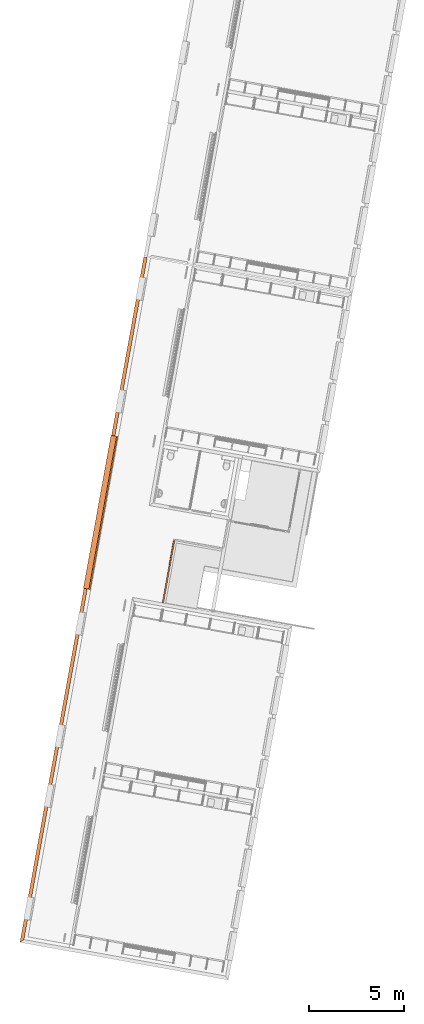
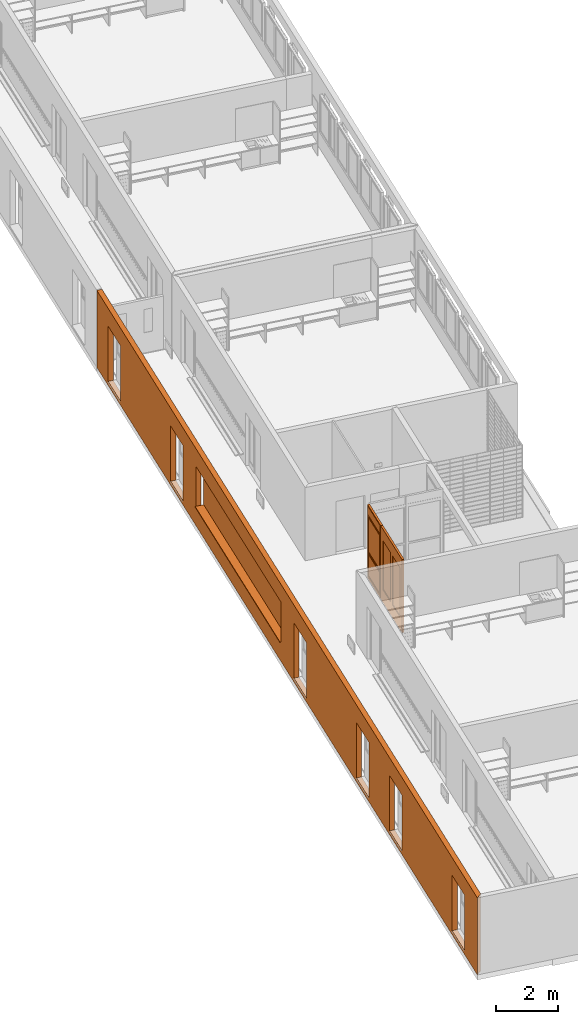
# One storey, part 39 of 52: 4 proxies.
"""IFC2X3 building model written with IfcOpenShell, lengths in metres."""

from ifc_helpers import new_model, entity, si_unit, converted_unit, derived_unit, money_unit, direction, frame, origin_with_axes, place, context, subcontext, project, spatial, polyline, outline, extrude, boolean, open_shell, faceted_brep, surface_model, material, type_object, element, save


model = new_model("IFC2X3")

# Units and contexts
model_context = context("Model", 3, precision=1e-05, world=origin_with_axes(), true_north=direction((0.0, 1.0)))
body_context = subcontext(model_context, "Body", "Model", "MODEL_VIEW")
ifc_project = project(units=[si_unit("LENGTHUNIT", "METRE"), si_unit("AREAUNIT", "SQUARE_METRE"), si_unit("VOLUMEUNIT", "CUBIC_METRE"), converted_unit("PLANEANGLEUNIT", "DEGREE", entity("IfcPlaneAngleMeasure", 0.0174532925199), si_unit("PLANEANGLEUNIT", "RADIAN"), dimensions=[0, 0, 0, 0, 0, 0, 0]), money_unit("CHF"), converted_unit("TIMEUNIT", "Year", entity("IfcTimeMeasure", 31556926.0), si_unit("TIMEUNIT", "SECOND"), dimensions=[0, 0, 1, 0, 0, 0, 0]), si_unit("MASSUNIT", "GRAM", prefix="KILO"), si_unit("THERMODYNAMICTEMPERATUREUNIT", "DEGREE_CELSIUS"), si_unit("LUMINOUSINTENSITYUNIT", "LUMEN"), si_unit("ENERGYUNIT", "JOULE", prefix="MEGA"), derived_unit("THERMALCONDUCTANCEUNIT", [(si_unit("POWERUNIT", "WATT"), 1), (si_unit("LENGTHUNIT", "METRE"), -1), (si_unit("THERMODYNAMICTEMPERATUREUNIT", "KELVIN"), -1)]), derived_unit("SPECIFICHEATCAPACITYUNIT", [(si_unit("ENERGYUNIT", "JOULE"), 1), (si_unit("MASSUNIT", "GRAM", prefix="KILO"), -1), (si_unit("THERMODYNAMICTEMPERATUREUNIT", "KELVIN"), -1)]), derived_unit("MASSDENSITYUNIT", [(si_unit("MASSUNIT", "GRAM", prefix="KILO"), 1), (si_unit("VOLUMEUNIT", "CUBIC_METRE"), -1)])], contexts=[model_context])

# Site, building, storey
site_placement = place(None, frame((0.0, 0.0, 0.0), z_axis=(0.0, 0.0, 1.0), x_axis=(-0.177771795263, -0.984071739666, 0.0)))
site = spatial("IfcSite", under=ifc_project, at=site_placement, Name="Site", CompositionType="ELEMENT")
building_placement = place(site_placement, origin_with_axes())
building = spatial("IfcBuilding", under=site, at=building_placement, Name="Bâtiment", CompositionType="ELEMENT")
storey_placement = place(building_placement, frame((0.0, 0.0, 3.2), z_axis=(0.0, 0.0, 1.0), x_axis=(1.0, 0.0, 0.0)))
storey = spatial("IfcBuildingStorey", under=building, at=storey_placement, Name="R+1", CompositionType="ELEMENT", Elevation=3.2)

# Proxies
ifc_material_1 = material(Name="_BA banché MILIEU")
building_element_proxy_type_1 = type_object("IfcBuildingElementProxyType", Name="_M ext 18 +18 MILIEU 360", PredefinedType="NOTDEFINED")
proxy_1_placement = place(storey_placement, frame((165.029841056, -159.217107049, -0.15), z_axis=(0.0, 0.0, 1.0), x_axis=(-1.0, 0.0, 0.0)))
element("IfcBuildingElementProxy", 1, at=proxy_1_placement, inside=storey, type_object=building_element_proxy_type_1, material=ifc_material_1, Name="M ext entretien-Est", context=body_context, shape_type="CSG", body=[
    boolean("DIFFERENCE", boolean("DIFFERENCE", boolean("DIFFERENCE", boolean("DIFFERENCE", boolean("DIFFERENCE", boolean("DIFFERENCE", boolean("DIFFERENCE", extrude(outline(polyline([(0.18, -0.18), (36.524999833, -0.18), (36.524999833, 0.0), (0.0, 0.0), (0.18, -0.18)])), origin_with_axes(), (0.0, 0.0, 1.0), 3.05), faceted_brep([(35.444999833, 0.0, 0.151), (34.244999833, 0.0, 0.151), (34.244999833, 0.0, 2.35), (35.444999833, 0.0, 2.35), (35.444999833, -0.18, 0.151), (34.244999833, -0.18, 0.151), (34.244999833, -0.18, 2.35), (35.444999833, -0.18, 2.35)], [[[0, 1, 2, 3]], [[4, 5, 1, 0]], [[5, 6, 2, 1]], [[6, 7, 3, 2]], [[7, 4, 0, 3]], [[4, 7, 6, 5]]])), faceted_brep([(29.444999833, 0.0, 0.151), (28.244999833, 0.0, 0.151), (28.244999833, 0.0, 2.35), (29.444999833, 0.0, 2.35), (29.444999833, -0.18, 0.151), (28.244999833, -0.18, 0.151), (28.244999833, -0.18, 2.35), (29.444999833, -0.18, 2.35)], [[[0, 1, 2, 3]], [[4, 5, 1, 0]], [[5, 6, 2, 1]], [[6, 7, 3, 2]], [[7, 4, 0, 3]], [[4, 7, 6, 5]]])), faceted_brep([(27.0025012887, 0.0, 0.751), (18.8525012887, 0.0, 0.751), (18.8525012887, 0.0, 2.35), (27.0025012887, 0.0, 2.35), (27.0025012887, -0.18, 0.751), (18.8525012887, -0.18, 0.751), (18.8525012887, -0.18, 2.35), (27.0025012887, -0.18, 2.35)], [[[0, 1, 2, 3]], [[4, 5, 1, 0]], [[5, 6, 2, 1]], [[6, 7, 3, 2]], [[7, 4, 0, 3]], [[4, 7, 6, 5]]])), faceted_brep([(17.6099998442, 0.0, 0.151), (16.4099998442, 0.0, 0.151), (16.4099998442, 0.0, 2.35), (17.6099998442, 0.0, 2.35), (17.6099998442, -0.18, 0.151), (16.4099998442, -0.18, 0.151), (16.4099998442, -0.18, 2.35), (17.6099998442, -0.18, 2.35)], [[[0, 1, 2, 3]], [[4, 5, 1, 0]], [[5, 6, 2, 1]], [[6, 7, 3, 2]], [[7, 4, 0, 3]], [[4, 7, 6, 5]]])), faceted_brep([(11.61, 0.0, 0.151), (10.41, 0.0, 0.151), (10.41, 0.0, 2.35), (11.61, 0.0, 2.35), (11.61, -0.18, 0.151), (10.41, -0.18, 0.151), (10.41, -0.18, 2.35), (11.61, -0.18, 2.35)], [[[0, 1, 2, 3]], [[4, 5, 1, 0]], [[5, 6, 2, 1]], [[6, 7, 3, 2]], [[7, 4, 0, 3]], [[4, 7, 6, 5]]])), faceted_brep([(8.43, 0.0, 0.151), (7.23, 0.0, 0.151), (7.23, 0.0, 2.35), (8.43, 0.0, 2.35), (8.43, -0.18, 0.151), (7.23, -0.18, 0.151), (7.23, -0.18, 2.35), (8.43, -0.18, 2.35)], [[[0, 1, 2, 3]], [[4, 5, 1, 0]], [[5, 6, 2, 1]], [[6, 7, 3, 2]], [[7, 4, 0, 3]], [[4, 7, 6, 5]]])), faceted_brep([(2.43, 0.0, 0.151), (1.23, 0.0, 0.151), (1.23, 0.0, 2.35), (2.43, 0.0, 2.35), (2.43, -0.18, 0.151), (1.23, -0.18, 0.151), (1.23, -0.18, 2.35), (2.43, -0.18, 2.35)], [[[0, 1, 2, 3]], [[4, 5, 1, 0]], [[5, 6, 2, 1]], [[6, 7, 3, 2]], [[7, 4, 0, 3]], [[4, 7, 6, 5]]])),
])
ifc_material_2 = material(Name="Matériau de construction IFC")
building_element_proxy_type_2 = type_object("IfcBuildingElementProxyType", Name="Fenêtre horizontale à châssis multiples 21", PredefinedType="NOTDEFINED")
proxy_2_placement = place(storey_placement, frame((138.027339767, -159.217107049, 0.601), z_axis=(0.0, 0.0, 1.0), x_axis=(1.0, 0.0, 0.0)))
element("IfcBuildingElementProxy", 2, at=proxy_2_placement, inside=storey, type_object=building_element_proxy_type_2, material=ifc_material_2, Name="Baie couloir", context=body_context, shape_type="SurfaceModel", body=[
    surface_model("IfcShellBasedSurfaceModel", [(0.0, 0.264, 0.03), (0.0, 0.264, 0.02), (8.15, 0.264, 0.02), (8.15, 0.264, 0.03), (0.0, -0.03, 0.02), (8.15, -0.03, 0.02), (0.0, -0.03, -0.01), (8.15, -0.03, -0.01), (0.0, -0.015, 0.005), (8.15, -0.015, 0.005)], [open_shell([[[0, 1, 2, 3]], [[1, 4, 5, 2]], [[4, 6, 7, 5]], [[6, 8, 9, 7]]])]),
    faceted_brep([(0.03, 0.265, 1.569), (0.03, 0.34, 1.569), (0.0, 0.34, 1.569), (0.0, 0.265, 1.569), (0.03, 0.265, 0.07), (0.03, 0.34, 0.07), (0.0, 0.34, 0.07), (0.0, 0.265, 0.07)], [[[0, 1, 2, 3]], [[4, 5, 1, 0]], [[1, 5, 6, 2]], [[3, 2, 6, 7]], [[0, 3, 7, 4]], [[7, 6, 5, 4]]]),
    faceted_brep([(8.12, 0.265, 0.07), (8.12, 0.34, 0.07), (8.15, 0.34, 0.07), (8.15, 0.265, 0.07), (8.12, 0.265, 1.569), (8.12, 0.34, 1.569), (8.15, 0.34, 1.569), (8.15, 0.265, 1.569)], [[[0, 1, 2, 3]], [[4, 5, 1, 0]], [[1, 5, 6, 2]], [[3, 2, 6, 7]], [[0, 3, 7, 4]], [[7, 6, 5, 4]]]),
    faceted_brep([(8.12, 0.265, 1.569), (8.12, 0.34, 1.569), (8.15, 0.34, 1.569), (8.15, 0.265, 1.569), (7.03285714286, 0.265, 1.569), (7.03285714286, 0.34, 1.569), (6.95285714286, 0.34, 1.569), (5.86571428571, 0.34, 1.569), (5.78571428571, 0.34, 1.569), (4.69857142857, 0.34, 1.569), (4.61857142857, 0.34, 1.569), (3.53142857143, 0.34, 1.569), (3.45142857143, 0.34, 1.569), (2.36428571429, 0.34, 1.569), (2.28428571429, 0.34, 1.569), (1.19714285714, 0.34, 1.569), (1.11714285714, 0.34, 1.569), (0.03, 0.34, 1.569), (0.0, 0.34, 1.569), (0.0, 0.34, 1.599), (8.15, 0.34, 1.599), (8.15, 0.265, 1.599), (0.0, 0.265, 1.599), (0.0, 0.265, 1.569), (0.03, 0.265, 1.569), (1.11714285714, 0.265, 1.569), (1.19714285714, 0.265, 1.569), (2.28428571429, 0.265, 1.569), (2.36428571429, 0.265, 1.569), (3.45142857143, 0.265, 1.569), (3.53142857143, 0.265, 1.569), (4.61857142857, 0.265, 1.569), (4.69857142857, 0.265, 1.569), (5.78571428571, 0.265, 1.569), (5.86571428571, 0.265, 1.569), (6.95285714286, 0.265, 1.569)], [[[0, 1, 2, 3]], [[4, 5, 1, 0]], [[1, 5, 6, 7, 8, 9, 10, 11, 12, 13, 14, 15, 16, 17, 18, 19, 20, 2]], [[3, 2, 20, 21]], [[0, 3, 21, 22, 23, 24, 25, 26, 27, 28, 29, 30, 31, 32, 33, 34, 35, 4]], [[35, 6, 5, 4]], [[34, 7, 6, 35]], [[33, 8, 7, 34]], [[32, 9, 8, 33]], [[31, 10, 9, 32]], [[30, 11, 10, 31]], [[29, 12, 11, 30]], [[28, 13, 12, 29]], [[27, 14, 13, 28]], [[26, 15, 14, 27]], [[25, 16, 15, 26]], [[24, 17, 16, 25]], [[23, 18, 17, 24]], [[22, 19, 18, 23]], [[21, 20, 19, 22]]]),
    faceted_brep([(7.03285714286, 0.265, 0.07), (7.03285714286, 0.34, 0.07), (6.95285714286, 0.34, 0.07), (6.95285714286, 0.265, 0.07), (8.12, 0.265, 0.07), (8.12, 0.34, 0.07), (8.15, 0.34, 0.07), (8.15, 0.34, 0.0), (0.0, 0.34, 0.0), (0.0, 0.34, 0.07), (0.03, 0.34, 0.07), (1.11714285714, 0.34, 0.07), (1.19714285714, 0.34, 0.07), (2.28428571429, 0.34, 0.07), (2.36428571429, 0.34, 0.07), (3.45142857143, 0.34, 0.07), (3.53142857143, 0.34, 0.07), (4.61857142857, 0.34, 0.07), (4.69857142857, 0.34, 0.07), (5.78571428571, 0.34, 0.07), (5.86571428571, 0.34, 0.07), (5.86571428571, 0.265, 0.07), (5.78571428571, 0.265, 0.07), (4.69857142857, 0.265, 0.07), (4.61857142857, 0.265, 0.07), (3.53142857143, 0.265, 0.07), (3.45142857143, 0.265, 0.07), (2.36428571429, 0.265, 0.07), (2.28428571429, 0.265, 0.07), (1.19714285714, 0.265, 0.07), (1.11714285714, 0.265, 0.07), (0.03, 0.265, 0.07), (0.0, 0.265, 0.07), (0.0, 0.265, 0.0), (8.15, 0.265, 0.0), (8.15, 0.265, 0.07)], [[[0, 1, 2, 3]], [[4, 5, 1, 0]], [[1, 5, 6, 7, 8, 9, 10, 11, 12, 13, 14, 15, 16, 17, 18, 19, 20, 2]], [[3, 2, 20, 21]], [[0, 3, 21, 22, 23, 24, 25, 26, 27, 28, 29, 30, 31, 32, 33, 34, 35, 4]], [[35, 6, 5, 4]], [[34, 7, 6, 35]], [[33, 8, 7, 34]], [[32, 9, 8, 33]], [[31, 10, 9, 32]], [[30, 11, 10, 31]], [[29, 12, 11, 30]], [[28, 13, 12, 29]], [[27, 14, 13, 28]], [[26, 15, 14, 27]], [[25, 16, 15, 26]], [[24, 17, 16, 25]], [[23, 18, 17, 24]], [[22, 19, 18, 23]], [[21, 20, 19, 22]]]),
    faceted_brep([(1.19714285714, 0.265, 0.07), (1.19714285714, 0.34, 0.07), (1.19714285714, 0.34, 1.569), (1.19714285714, 0.265, 1.569), (1.11714285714, 0.265, 0.07), (1.11714285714, 0.34, 0.07), (1.11714285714, 0.34, 1.569), (1.11714285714, 0.265, 1.569)], [[[0, 1, 2, 3]], [[4, 5, 1, 0]], [[1, 5, 6, 2]], [[3, 2, 6, 7]], [[0, 3, 7, 4]], [[7, 6, 5, 4]]]),
    faceted_brep([(2.36428571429, 0.265, 0.07), (2.36428571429, 0.34, 0.07), (2.36428571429, 0.34, 1.569), (2.36428571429, 0.265, 1.569), (2.28428571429, 0.265, 0.07), (2.28428571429, 0.34, 0.07), (2.28428571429, 0.34, 1.569), (2.28428571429, 0.265, 1.569)], [[[0, 1, 2, 3]], [[4, 5, 1, 0]], [[1, 5, 6, 2]], [[3, 2, 6, 7]], [[0, 3, 7, 4]], [[7, 6, 5, 4]]]),
    faceted_brep([(3.53142857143, 0.265, 0.07), (3.53142857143, 0.34, 0.07), (3.53142857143, 0.34, 1.569), (3.53142857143, 0.265, 1.569), (3.45142857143, 0.265, 0.07), (3.45142857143, 0.34, 0.07), (3.45142857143, 0.34, 1.569), (3.45142857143, 0.265, 1.569)], [[[0, 1, 2, 3]], [[4, 5, 1, 0]], [[1, 5, 6, 2]], [[3, 2, 6, 7]], [[0, 3, 7, 4]], [[7, 6, 5, 4]]]),
    faceted_brep([(4.69857142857, 0.265, 0.07), (4.69857142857, 0.34, 0.07), (4.69857142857, 0.34, 1.569), (4.69857142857, 0.265, 1.569), (4.61857142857, 0.265, 0.07), (4.61857142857, 0.34, 0.07), (4.61857142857, 0.34, 1.569), (4.61857142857, 0.265, 1.569)], [[[0, 1, 2, 3]], [[4, 5, 1, 0]], [[1, 5, 6, 2]], [[3, 2, 6, 7]], [[0, 3, 7, 4]], [[7, 6, 5, 4]]]),
    faceted_brep([(5.86571428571, 0.265, 0.07), (5.86571428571, 0.34, 0.07), (5.86571428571, 0.34, 1.569), (5.86571428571, 0.265, 1.569), (5.78571428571, 0.265, 0.07), (5.78571428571, 0.34, 0.07), (5.78571428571, 0.34, 1.569), (5.78571428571, 0.265, 1.569)], [[[0, 1, 2, 3]], [[4, 5, 1, 0]], [[1, 5, 6, 2]], [[3, 2, 6, 7]], [[0, 3, 7, 4]], [[7, 6, 5, 4]]]),
    faceted_brep([(7.03285714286, 0.265, 0.07), (7.03285714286, 0.34, 0.07), (7.03285714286, 0.34, 1.569), (7.03285714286, 0.265, 1.569), (6.95285714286, 0.265, 0.07), (6.95285714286, 0.34, 0.07), (6.95285714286, 0.34, 1.569), (6.95285714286, 0.265, 1.569)], [[[0, 1, 2, 3]], [[4, 5, 1, 0]], [[1, 5, 6, 2]], [[3, 2, 6, 7]], [[0, 3, 7, 4]], [[7, 6, 5, 4]]]),
    surface_model("IfcShellBasedSurfaceModel", [(0.03, 0.265, 0.07), (1.11714285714, 0.265, 0.07), (1.11714285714, 0.265, 1.569), (0.03, 0.265, 1.569)], [open_shell([[[0, 1, 2, 3]]])]),
    surface_model("IfcShellBasedSurfaceModel", [(0.03, 0.285, 0.07), (0.03, 0.285, 1.569), (1.11714285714, 0.285, 1.569), (1.11714285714, 0.285, 0.07)], [open_shell([[[0, 1, 2, 3]]])]),
    surface_model("IfcShellBasedSurfaceModel", [(1.19714285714, 0.265, 0.07), (2.28428571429, 0.265, 0.07), (2.28428571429, 0.265, 1.569), (1.19714285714, 0.265, 1.569)], [open_shell([[[0, 1, 2, 3]]])]),
    surface_model("IfcShellBasedSurfaceModel", [(1.19714285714, 0.285, 0.07), (1.19714285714, 0.285, 1.569), (2.28428571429, 0.285, 1.569), (2.28428571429, 0.285, 0.07)], [open_shell([[[0, 1, 2, 3]]])]),
    surface_model("IfcShellBasedSurfaceModel", [(2.36428571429, 0.265, 0.07), (3.45142857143, 0.265, 0.07), (3.45142857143, 0.265, 1.569), (2.36428571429, 0.265, 1.569)], [open_shell([[[0, 1, 2, 3]]])]),
    surface_model("IfcShellBasedSurfaceModel", [(2.36428571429, 0.285, 0.07), (2.36428571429, 0.285, 1.569), (3.45142857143, 0.285, 1.569), (3.45142857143, 0.285, 0.07)], [open_shell([[[0, 1, 2, 3]]])]),
    surface_model("IfcShellBasedSurfaceModel", [(3.53142857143, 0.265, 0.07), (4.61857142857, 0.265, 0.07), (4.61857142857, 0.265, 1.569), (3.53142857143, 0.265, 1.569)], [open_shell([[[0, 1, 2, 3]]])]),
    surface_model("IfcShellBasedSurfaceModel", [(3.53142857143, 0.285, 0.07), (3.53142857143, 0.285, 1.569), (4.61857142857, 0.285, 1.569), (4.61857142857, 0.285, 0.07)], [open_shell([[[0, 1, 2, 3]]])]),
    surface_model("IfcShellBasedSurfaceModel", [(4.69857142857, 0.265, 0.07), (5.78571428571, 0.265, 0.07), (5.78571428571, 0.265, 1.569), (4.69857142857, 0.265, 1.569)], [open_shell([[[0, 1, 2, 3]]])]),
    surface_model("IfcShellBasedSurfaceModel", [(4.69857142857, 0.285, 0.07), (4.69857142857, 0.285, 1.569), (5.78571428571, 0.285, 1.569), (5.78571428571, 0.285, 0.07)], [open_shell([[[0, 1, 2, 3]]])]),
    surface_model("IfcShellBasedSurfaceModel", [(5.86571428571, 0.265, 0.07), (6.95285714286, 0.265, 0.07), (6.95285714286, 0.265, 1.569), (5.86571428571, 0.265, 1.569)], [open_shell([[[0, 1, 2, 3]]])]),
    surface_model("IfcShellBasedSurfaceModel", [(5.86571428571, 0.285, 0.07), (5.86571428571, 0.285, 1.569), (6.95285714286, 0.285, 1.569), (6.95285714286, 0.285, 0.07)], [open_shell([[[0, 1, 2, 3]]])]),
    surface_model("IfcShellBasedSurfaceModel", [(7.03285714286, 0.265, 0.07), (8.12, 0.265, 0.07), (8.12, 0.265, 1.569), (7.03285714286, 0.265, 1.569)], [open_shell([[[0, 1, 2, 3]]])]),
    surface_model("IfcShellBasedSurfaceModel", [(7.03285714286, 0.285, 0.07), (7.03285714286, 0.285, 1.569), (8.12, 0.285, 1.569), (8.12, 0.285, 0.07)], [open_shell([[[0, 1, 2, 3]]])]),
])
building_element_proxy_type_3 = type_object("IfcBuildingElementProxyType", Name="Fenêtre verticale à châssis multiples 21", PredefinedType="NOTDEFINED")
proxy_3_placement = place(storey_placement, frame((144.149840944, -154.972147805, 0.0), z_axis=(0.0, 0.0, 1.0), x_axis=(-0.999999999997, -2.4125125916e-06, 0.0)))
element("IfcBuildingElementProxy", 3, at=proxy_3_placement, inside=storey, type_object=building_element_proxy_type_3, material=ifc_material_2, Name="Baie terrasse_ATTENTE", context=body_context, shape_type="SurfaceModel", body=[
    faceted_brep([(1.26000058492, 0.075, 0.07), (1.26000058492, 0.075, 2.5225), (1.25000058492, 0.075, 2.5225), (1.25000058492, 0.075, 2.5775), (1.26000058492, 0.075, 2.5775), (1.26000058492, 0.075, 2.87), (1.28000058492, 0.075, 2.87), (1.28000058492, 0.075, 0.07), (1.26000058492, 0.01, 0.07), (1.26000058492, 0.01, 2.5225), (1.25000058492, 0.01, 2.5225), (1.25000058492, 0.01, 2.5125), (1.25000058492, 0.0, 2.5125), (1.25000058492, 0.0, 2.5875), (1.25000058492, 0.01, 2.5875), (1.25000058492, 0.01, 2.5775), (1.26000058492, 0.01, 2.5775), (1.26000058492, 0.01, 2.87), (1.25000058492, 0.01, 2.87), (1.25000058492, 0.0, 2.87), (1.28000058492, 0.0, 2.87), (1.28000058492, 0.0, 0.07), (1.25000058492, 0.0, 0.07), (1.25000058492, 0.01, 0.07)], [[[0, 1, 2, 3, 4, 5, 6, 7]], [[1, 0, 8, 9]], [[10, 2, 1, 9]], [[10, 11, 12, 13, 14, 15, 3, 2]], [[4, 3, 15, 16]], [[17, 5, 4, 16]], [[5, 17, 18, 19, 20, 6]], [[6, 20, 21, 7]], [[8, 0, 7, 21, 22, 23]], [[11, 10, 9, 8, 23]], [[11, 23, 22, 12]], [[20, 19, 13, 12, 22, 21]], [[18, 14, 13, 19]], [[14, 18, 17, 16, 15]]]),
    faceted_brep([(0.02, 0.075, 2.5225), (0.02, 0.075, 0.07), (0.0, 0.075, 0.07), (0.0, 0.075, 2.87), (0.02, 0.075, 2.87), (0.02, 0.075, 2.5775), (0.03, 0.075, 2.5775), (0.03, 0.075, 2.5225), (0.02, 0.01, 2.5225), (0.02, 0.01, 0.07), (0.03, 0.01, 0.07), (0.03, 0.0, 0.07), (0.0, 0.0, 0.07), (0.0, 0.0, 2.87), (0.03, 0.01, 2.87), (0.02, 0.01, 2.87), (0.03, 0.0, 2.87), (0.02, 0.01, 2.5775), (0.03, 0.01, 2.5775), (0.03, 0.01, 2.5225), (0.03, 0.01, 2.5875), (0.03, 0.0, 2.5875), (0.03, 0.0, 2.5125), (0.03, 0.01, 2.5125)], [[[0, 1, 2, 3, 4, 5, 6, 7]], [[1, 0, 8, 9]], [[9, 10, 11, 12, 2, 1]], [[2, 12, 13, 3]], [[14, 15, 4, 3, 13, 16]], [[5, 4, 15, 17]], [[6, 5, 17, 18]], [[19, 7, 6, 18, 20, 21, 22, 23]], [[0, 7, 19, 8]], [[10, 9, 8, 19, 23]], [[10, 23, 22, 11]], [[22, 21, 16, 13, 12, 11]], [[15, 14, 20, 18, 17]], [[20, 14, 16, 21]]]),
    faceted_brep([(1.26000058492, 0.075, 2.87), (1.26000058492, 0.075, 2.88), (0.02, 0.075, 2.88), (0.02, 0.075, 2.87), (0.0, 0.075, 2.87), (0.0, 0.075, 2.9), (1.28000058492, 0.075, 2.9), (1.28000058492, 0.075, 2.87), (1.26000058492, 0.01, 2.87), (1.26000058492, 0.01, 2.88), (0.02, 0.01, 2.88), (0.02, 0.01, 2.87), (0.03, 0.01, 2.87), (0.03, 0.0, 2.87), (0.0, 0.0, 2.87), (0.0, 0.0, 2.9), (1.28000058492, 0.0, 2.9), (1.28000058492, 0.0, 2.87), (1.25000058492, 0.0, 2.87), (1.25000058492, 0.01, 2.87)], [[[0, 1, 2, 3, 4, 5, 6, 7]], [[1, 0, 8, 9]], [[2, 1, 9, 10]], [[3, 2, 10, 11]], [[11, 12, 13, 14, 4, 3]], [[4, 14, 15, 5]], [[5, 15, 16, 6]], [[6, 16, 17, 7]], [[8, 0, 7, 17, 18, 19]], [[12, 11, 10, 9, 8, 19]], [[12, 19, 18, 13]], [[14, 13, 18, 17, 16, 15]]]),
    faceted_brep([(0.03, 0.01, 0.07), (0.02, 0.01, 0.07), (0.02, 0.075, 0.07), (0.0, 0.075, 0.07), (0.0, 0.0, 0.07), (0.03, 0.0, 0.07), (1.25000058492, 0.01, 0.07), (1.26000058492, 0.01, 0.07), (1.26000058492, 0.01, 0.06), (0.02, 0.01, 0.06), (0.02, 0.075, 0.06), (1.26000058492, 0.075, 0.06), (1.26000058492, 0.075, 0.07), (1.28000058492, 0.075, 0.07), (1.28000058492, 0.075, 0.0), (0.0, 0.075, 0.0), (0.0, 0.0, 0.0), (1.28000058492, 0.0, 0.07), (1.25000058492, 0.0, 0.07), (1.28000058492, 0.0, 0.0)], [[[0, 1, 2, 3, 4, 5]], [[1, 0, 6, 7, 8, 9]], [[10, 2, 1, 9]], [[11, 12, 13, 14, 15, 3, 2, 10]], [[15, 16, 4, 3]], [[17, 18, 5, 4, 16, 19]], [[6, 0, 5, 18]], [[7, 6, 18, 17, 13, 12]], [[7, 12, 11, 8]], [[11, 10, 9, 8]], [[13, 17, 19, 14]], [[14, 19, 16, 15]]]),
    faceted_brep([(1.25000058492, 0.075, 2.5225), (0.03, 0.075, 2.5225), (0.03, 0.075, 2.5775), (1.25000058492, 0.075, 2.5775), (0.03, 0.01, 2.5225), (1.25000058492, 0.01, 2.5225), (0.03, 0.01, 2.5125), (0.03, 0.0, 2.5125), (0.03, 0.0, 2.5875), (0.03, 0.01, 2.5875), (0.03, 0.01, 2.5775), (1.25000058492, 0.01, 2.5775), (1.25000058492, 0.01, 2.5875), (1.25000058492, 0.0, 2.5875), (1.25000058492, 0.0, 2.5125), (1.25000058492, 0.01, 2.5125)], [[[0, 1, 2, 3]], [[4, 1, 0, 5]], [[4, 6, 7, 8, 9, 10, 2, 1]], [[3, 2, 10, 11]], [[5, 0, 3, 11, 12, 13, 14, 15]], [[6, 4, 5, 15]], [[6, 15, 14, 7]], [[13, 8, 7, 14]], [[12, 9, 8, 13]], [[10, 9, 12, 11]]]),
    faceted_brep([(1.20000058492, 0.01, 1.0), (1.20000058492, 0.01, 1.06), (1.20000058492, 0.085, 1.06), (1.20000058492, 0.085, 1.0), (1.20000058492, 0.01, 0.12), (1.26000058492, 0.01, 0.12), (1.26000058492, 0.01, 2.4625), (1.20000058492, 0.01, 2.4625), (1.20000058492, 0.085, 2.4625), (1.26000058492, 0.085, 2.4625), (1.26000058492, 0.085, 0.12), (1.20000058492, 0.085, 0.12)], [[[0, 1, 2, 3]], [[0, 4, 5, 6, 7, 1]], [[1, 7, 8, 2]], [[3, 2, 8, 9, 10, 11]], [[4, 0, 3, 11]], [[5, 4, 11, 10]], [[6, 5, 10, 9]], [[7, 6, 9, 8]]]),
    faceted_brep([(0.08, 0.01, 0.12), (0.02, 0.01, 0.12), (0.02, 0.085, 0.12), (0.08, 0.085, 0.12), (0.08, 0.01, 1.0), (0.08, 0.01, 1.06), (0.08, 0.01, 2.4625), (0.02, 0.01, 2.4625), (0.02, 0.085, 2.4625), (0.08, 0.085, 2.4625), (0.08, 0.085, 1.06), (0.08, 0.085, 1.0)], [[[0, 1, 2, 3]], [[0, 4, 5, 6, 7, 1]], [[1, 7, 8, 2]], [[3, 2, 8, 9, 10, 11]], [[4, 0, 3, 11]], [[5, 4, 11, 10]], [[6, 5, 10, 9]], [[7, 6, 9, 8]]]),
    faceted_brep([(0.02, 0.01, 0.06), (0.02, 0.01, 0.12), (0.02, 0.085, 0.12), (0.02, 0.085, 0.06), (1.26000058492, 0.01, 0.06), (1.26000058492, 0.01, 0.12), (1.20000058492, 0.01, 0.12), (0.08, 0.01, 0.12), (0.08, 0.085, 0.12), (1.20000058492, 0.085, 0.12), (1.26000058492, 0.085, 0.12), (1.26000058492, 0.085, 0.06)], [[[0, 1, 2, 3]], [[0, 4, 5, 6, 7, 1]], [[1, 7, 8, 2]], [[3, 2, 8, 9, 10, 11]], [[4, 0, 3, 11]], [[5, 4, 11, 10]], [[6, 5, 10, 9]], [[7, 6, 9, 8]]]),
    faceted_brep([(1.26000058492, 0.01, 2.5225), (1.26000058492, 0.01, 2.4625), (1.26000058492, 0.085, 2.4625), (1.26000058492, 0.085, 2.5225), (0.02, 0.01, 2.5225), (0.02, 0.01, 2.4625), (0.08, 0.01, 2.4625), (1.20000058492, 0.01, 2.4625), (1.20000058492, 0.085, 2.4625), (0.08, 0.085, 2.4625), (0.02, 0.085, 2.4625), (0.02, 0.085, 2.5225)], [[[0, 1, 2, 3]], [[0, 4, 5, 6, 7, 1]], [[1, 7, 8, 2]], [[3, 2, 8, 9, 10, 11]], [[4, 0, 3, 11]], [[5, 4, 11, 10]], [[6, 5, 10, 9]], [[7, 6, 9, 8]]]),
    faceted_brep([(0.08, 0.01, 1.0), (0.08, 0.01, 1.06), (0.08, 0.085, 1.06), (0.08, 0.085, 1.0), (1.20000058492, 0.01, 1.0), (1.20000058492, 0.01, 1.06), (1.20000058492, 0.085, 1.06), (1.20000058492, 0.085, 1.0)], [[[0, 1, 2, 3]], [[0, 4, 5, 1]], [[1, 5, 6, 2]], [[3, 2, 6, 7]], [[4, 0, 3, 7]], [[5, 4, 7, 6]]]),
    surface_model("IfcShellBasedSurfaceModel", [(1.20000058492, 0.0375, 1.06), (1.20000058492, 0.0375, 2.4625), (0.08, 0.0375, 2.4625), (0.08, 0.0375, 1.06)], [open_shell([[[0, 1, 2, 3]]])]),
    surface_model("IfcShellBasedSurfaceModel", [(1.20000058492, 0.0575, 1.06), (0.08, 0.0575, 1.06), (0.08, 0.0575, 2.4625), (1.20000058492, 0.0575, 2.4625)], [open_shell([[[0, 1, 2, 3]]])]),
    surface_model("IfcShellBasedSurfaceModel", [(1.20000058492, 0.0375, 0.12), (1.20000058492, 0.0375, 1.0), (0.08, 0.0375, 1.0), (0.08, 0.0375, 0.12)], [open_shell([[[0, 1, 2, 3]]])]),
    surface_model("IfcShellBasedSurfaceModel", [(1.20000058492, 0.0575, 0.12), (0.08, 0.0575, 0.12), (0.08, 0.0575, 1.0), (1.20000058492, 0.0575, 1.0)], [open_shell([[[0, 1, 2, 3]]])]),
    faceted_brep([(1.26000058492, 0.01, 2.5775), (0.02, 0.01, 2.5775), (0.02, 0.085, 2.5775), (1.26000058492, 0.085, 2.5775), (1.26000058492, 0.01, 2.88), (0.02, 0.01, 2.88), (0.02, 0.085, 2.88), (1.26000058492, 0.085, 2.88)], [[[0, 1, 2, 3]], [[0, 4, 5, 1]], [[1, 5, 6, 2]], [[3, 2, 6, 7]], [[4, 0, 3, 7]], [[5, 4, 7, 6]]]),
])
building_element_proxy_type_4 = type_object("IfcBuildingElementProxyType", Name="Porte double avec imposte 21", PredefinedType="NOTDEFINED")
proxy_4_placement = place(storey_placement, frame((144.149840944, -154.972147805, 0.0), z_axis=(0.0, 0.0, 1.0), x_axis=(0.999999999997, 2.41251259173e-06, 0.0)))
element("IfcBuildingElementProxy", 4, at=proxy_4_placement, inside=storey, type_object=building_element_proxy_type_4, material=ifc_material_2, Name="Porte terrasse_ATTENTE", context=body_context, shape_type="SurfaceModel", body=[
    faceted_brep([(2.04, 0.0, 0.0), (2.04, -0.075, 0.0), (1.94, -0.075, 0.0), (1.94, 0.0, 0.0), (2.04, 0.0, 2.85), (2.04, -0.075, 2.85), (1.94, -0.075, 2.85), (1.94, -0.075, 2.59), (1.94, -0.075, 2.55), (1.94, 0.0, 2.55), (1.94, 0.0, 2.59), (1.94, 0.0, 2.85)], [[[0, 1, 2, 3]], [[4, 5, 1, 0]], [[1, 5, 6, 7, 8, 2]], [[3, 2, 8, 9]], [[0, 3, 9, 10, 11, 4]], [[11, 6, 5, 4]], [[10, 7, 6, 11]], [[9, 8, 7, 10]]]),
    faceted_brep([(0.0, 0.0, 0.0), (0.0, -0.075, 0.0), (0.0, -0.075, 2.85), (0.0, 0.0, 2.85), (0.1, 0.0, 0.0), (0.1, -0.075, 0.0), (0.1, -0.075, 2.55), (0.1, -0.075, 2.59), (0.1, -0.075, 2.85), (0.1, 0.0, 2.85), (0.1, 0.0, 2.59), (0.1, 0.0, 2.55)], [[[0, 1, 2, 3]], [[4, 5, 1, 0]], [[1, 5, 6, 7, 8, 2]], [[3, 2, 8, 9]], [[0, 3, 9, 10, 11, 4]], [[11, 6, 5, 4]], [[10, 7, 6, 11]], [[9, 8, 7, 10]]]),
    faceted_brep([(2.04, 0.0, 2.9), (2.04, -0.075, 2.9), (2.04, -0.075, 2.85), (2.04, 0.0, 2.85), (0.0, 0.0, 2.9), (0.0, -0.075, 2.9), (0.0, -0.075, 2.85), (0.1, -0.075, 2.85), (1.94, -0.075, 2.85), (1.94, 0.0, 2.85), (0.1, 0.0, 2.85), (0.0, 0.0, 2.85)], [[[0, 1, 2, 3]], [[4, 5, 1, 0]], [[1, 5, 6, 7, 8, 2]], [[3, 2, 8, 9]], [[0, 3, 9, 10, 11, 4]], [[11, 6, 5, 4]], [[10, 7, 6, 11]], [[9, 8, 7, 10]]]),
    faceted_brep([(1.94, 0.0, 2.59), (1.94, -0.075, 2.59), (1.94, -0.075, 2.55), (1.94, 0.0, 2.55), (0.1, 0.0, 2.59), (0.1, -0.075, 2.59), (0.1, -0.075, 2.55), (0.1, 0.0, 2.55)], [[[0, 1, 2, 3]], [[4, 5, 1, 0]], [[1, 5, 6, 2]], [[3, 2, 6, 7]], [[0, 3, 7, 4]], [[7, 6, 5, 4]]]),
    faceted_brep([(0.1, 0.0, 0.5), (0.2, 0.0, 0.5), (0.2, -0.075, 0.5), (0.1, -0.075, 0.5), (0.1, 0.0, 2.45), (0.2, 0.0, 2.45), (0.2, -0.075, 2.45), (0.1, -0.075, 2.45)], [[[0, 1, 2, 3]], [[0, 4, 5, 1]], [[1, 5, 6, 2]], [[3, 2, 6, 7]], [[4, 0, 3, 7]], [[5, 4, 7, 6]]]),
    faceted_brep([(1.02, 0.0, 0.5), (1.02, 0.0, 2.45), (1.02, -0.075, 2.45), (1.02, -0.075, 0.5), (0.92, 0.0, 0.5), (0.92, 0.0, 2.45), (0.92, -0.075, 2.45), (0.92, -0.075, 0.5)], [[[0, 1, 2, 3]], [[0, 4, 5, 1]], [[1, 5, 6, 2]], [[3, 2, 6, 7]], [[4, 0, 3, 7]], [[5, 4, 7, 6]]]),
    faceted_brep([(0.1, 0.0, 0.0), (1.02, 0.0, 0.0), (1.02, -0.075, 0.0), (0.1, -0.075, 0.0), (0.1, 0.0, 0.5), (0.2, 0.0, 0.5), (0.92, 0.0, 0.5), (1.02, 0.0, 0.5), (1.02, -0.075, 0.5), (0.92, -0.075, 0.5), (0.2, -0.075, 0.5), (0.1, -0.075, 0.5)], [[[0, 1, 2, 3]], [[0, 4, 5, 6, 7, 1]], [[1, 7, 8, 2]], [[3, 2, 8, 9, 10, 11]], [[4, 0, 3, 11]], [[5, 4, 11, 10]], [[6, 5, 10, 9]], [[7, 6, 9, 8]]]),
    faceted_brep([(0.1, 0.0, 2.55), (0.1, 0.0, 2.45), (0.1, -0.075, 2.45), (0.1, -0.075, 2.55), (1.02, 0.0, 2.55), (1.02, 0.0, 2.45), (0.92, 0.0, 2.45), (0.2, 0.0, 2.45), (0.2, -0.075, 2.45), (0.92, -0.075, 2.45), (1.02, -0.075, 2.45), (1.02, -0.075, 2.55)], [[[0, 1, 2, 3]], [[0, 4, 5, 6, 7, 1]], [[1, 7, 8, 2]], [[3, 2, 8, 9, 10, 11]], [[4, 0, 3, 11]], [[5, 4, 11, 10]], [[6, 5, 10, 9]], [[7, 6, 9, 8]]]),
    surface_model("IfcShellBasedSurfaceModel", [(0.2, -0.0275, 0.5), (0.2, -0.0275, 2.45), (0.92, -0.0275, 2.45), (0.92, -0.0275, 0.5)], [open_shell([[[0, 1, 2, 3]]])]),
    surface_model("IfcShellBasedSurfaceModel", [(0.2, -0.0475, 0.5), (0.92, -0.0475, 0.5), (0.92, -0.0475, 2.45), (0.2, -0.0475, 2.45)], [open_shell([[[0, 1, 2, 3]]])]),
    faceted_brep([(1.94, 0.0, 0.5), (1.94, -0.075, 0.5), (1.84, -0.075, 0.5), (1.84, 0.0, 0.5), (1.94, 0.0, 2.45), (1.94, -0.075, 2.45), (1.84, -0.075, 2.45), (1.84, 0.0, 2.45)], [[[0, 1, 2, 3]], [[4, 5, 1, 0]], [[1, 5, 6, 2]], [[3, 2, 6, 7]], [[0, 3, 7, 4]], [[7, 6, 5, 4]]]),
    faceted_brep([(1.02, 0.0, 0.5), (1.02, -0.075, 0.5), (1.02, -0.075, 2.45), (1.02, 0.0, 2.45), (1.12, 0.0, 0.5), (1.12, -0.075, 0.5), (1.12, -0.075, 2.45), (1.12, 0.0, 2.45)], [[[0, 1, 2, 3]], [[4, 5, 1, 0]], [[1, 5, 6, 2]], [[3, 2, 6, 7]], [[0, 3, 7, 4]], [[7, 6, 5, 4]]]),
    faceted_brep([(1.94, 0.0, 0.0), (1.94, -0.075, 0.0), (1.02, -0.075, 0.0), (1.02, 0.0, 0.0), (1.94, 0.0, 0.5), (1.94, -0.075, 0.5), (1.84, -0.075, 0.5), (1.12, -0.075, 0.5), (1.02, -0.075, 0.5), (1.02, 0.0, 0.5), (1.12, 0.0, 0.5), (1.84, 0.0, 0.5)], [[[0, 1, 2, 3]], [[4, 5, 1, 0]], [[1, 5, 6, 7, 8, 2]], [[3, 2, 8, 9]], [[0, 3, 9, 10, 11, 4]], [[11, 6, 5, 4]], [[10, 7, 6, 11]], [[9, 8, 7, 10]]]),
    faceted_brep([(1.94, 0.0, 2.55), (1.94, -0.075, 2.55), (1.94, -0.075, 2.45), (1.94, 0.0, 2.45), (1.02, 0.0, 2.55), (1.02, -0.075, 2.55), (1.02, -0.075, 2.45), (1.12, -0.075, 2.45), (1.84, -0.075, 2.45), (1.84, 0.0, 2.45), (1.12, 0.0, 2.45), (1.02, 0.0, 2.45)], [[[0, 1, 2, 3]], [[4, 5, 1, 0]], [[1, 5, 6, 7, 8, 2]], [[3, 2, 8, 9]], [[0, 3, 9, 10, 11, 4]], [[11, 6, 5, 4]], [[10, 7, 6, 11]], [[9, 8, 7, 10]]]),
    surface_model("IfcShellBasedSurfaceModel", [(1.84, -0.0275, 0.5), (1.12, -0.0275, 0.5), (1.12, -0.0275, 2.45), (1.84, -0.0275, 2.45)], [open_shell([[[0, 1, 2, 3]]])]),
    surface_model("IfcShellBasedSurfaceModel", [(1.84, -0.0475, 0.5), (1.84, -0.0475, 2.45), (1.12, -0.0475, 2.45), (1.12, -0.0475, 0.5)], [open_shell([[[0, 1, 2, 3]]])]),
    faceted_brep([(1.94, 0.0, 2.59), (1.94, -0.075, 2.59), (0.1, -0.075, 2.59), (0.1, 0.0, 2.59), (1.94, 0.0, 2.85), (1.94, -0.075, 2.85), (0.1, -0.075, 2.85), (0.1, 0.0, 2.85)], [[[0, 1, 2, 3]], [[4, 5, 1, 0]], [[1, 5, 6, 2]], [[3, 2, 6, 7]], [[0, 3, 7, 4]], [[7, 6, 5, 4]]]),
])

save(model, "model.ifc")
